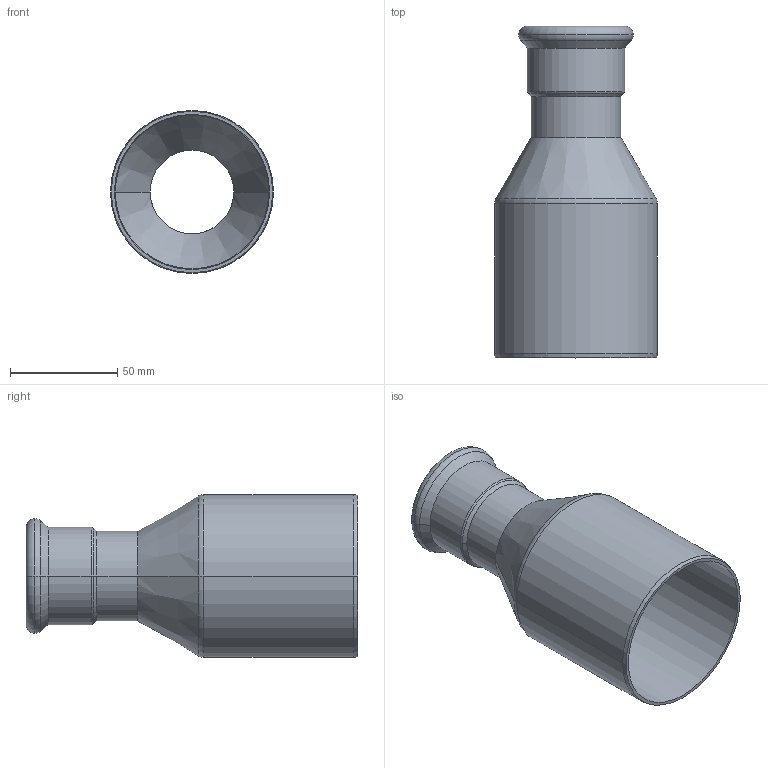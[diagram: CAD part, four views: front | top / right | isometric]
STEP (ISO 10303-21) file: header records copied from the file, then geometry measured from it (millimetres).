
FILE_DESCRIPTION(('CoCreate Modeling STEP Export'),'2;1');
FILE_NAME('C1407 42x76.1.stp','2014-11-07T16:37:00',(''),(''),'CoCreate Modeling STEP processor for AP214 (Solid Model)','CoCreate Modeling 17.00A 17-Jun-2010 (C) Parametric Technology GmbH','');
FILE_SCHEMA(('AUTOMOTIVE_DESIGN { 1 0 10303 214 1 1 1 1 }'));
Length unit declared in the file: millimetre
Products named in the file (2): C1407_42x76
Assembly tree (1 placements, depth 2):
  C1407_42x76
    C1407_42x76
Bounding box: 76.1 x 155 x 76.1 mm (x, y, z)
Volume: 56910.6 mm3; surface area: 62077.5 mm2
Topology: 1 solids, 1 shells, 38 faces, 77 edges, 43 vertices
Faces by surface type: cylinder 14, cone 10, torus 10, plane 4
Entity records: 843 total; most frequent: ORIENTED_EDGE 154, DIRECTION 130, CARTESIAN_POINT 120, EDGE_CURVE 77, AXIS2_PLACEMENT_3D 53, VERTEX_POINT 43, EDGE_LOOP 42, FACE_OUTER_BOUND 38
